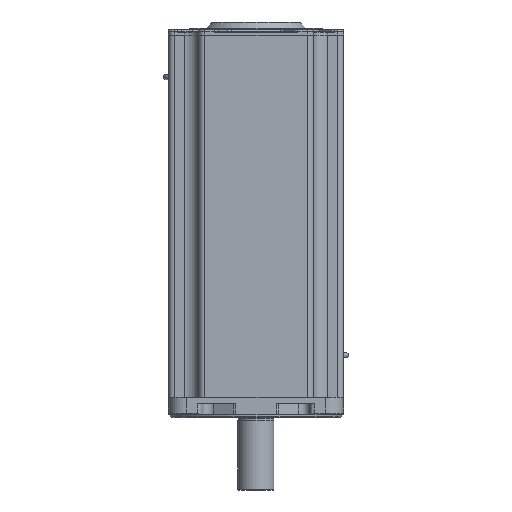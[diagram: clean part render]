
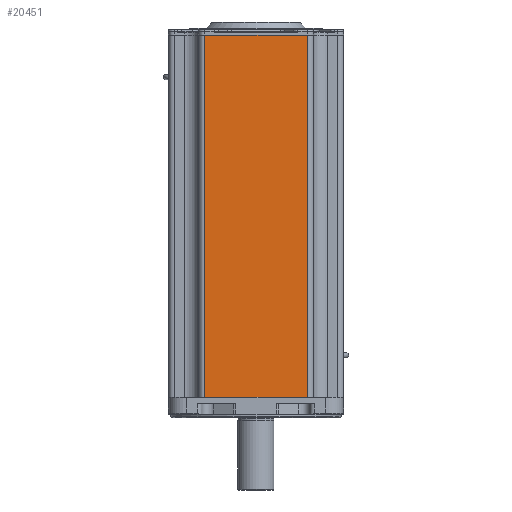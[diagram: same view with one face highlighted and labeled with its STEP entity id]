
A CAD part, front view. The second image highlights one B-rep face of the part: STEP entity #20451.
In plain terms, the highlighted planar face has unit normal (0, -1, 0).
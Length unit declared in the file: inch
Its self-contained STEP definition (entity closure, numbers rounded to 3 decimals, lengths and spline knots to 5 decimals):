
#5605=CARTESIAN_POINT('',(2.14,-3.64,15.41));
#5606=VERTEX_POINT('',#5605);
#5818=CARTESIAN_POINT('',(-2.14,-3.64,15.41));
#5819=VERTEX_POINT('',#5818);
#5826=CARTESIAN_POINT('',(-2.14,-3.64,15.41));
#5827=DIRECTION('',(1.0,0.0,0.0));
#5828=VECTOR('',#5827,4.28);
#5829=LINE('',#5826,#5828);
#5830=EDGE_CURVE('',#5819,#5606,#5829,.T.);
#7876=CARTESIAN_POINT('',(-2.14,-3.64,0.35));
#7877=VERTEX_POINT('',#7876);
#7885=CARTESIAN_POINT('',(-2.14,-3.64,0.35));
#7886=DIRECTION('',(0.0,0.0,1.0));
#7887=VECTOR('',#7886,15.06);
#7888=LINE('',#7885,#7887);
#7889=EDGE_CURVE('',#7877,#5819,#7888,.T.);
#20416=CARTESIAN_POINT('',(2.14,-3.64,0.35));
#20417=VERTEX_POINT('',#20416);
#20418=CARTESIAN_POINT('',(2.14,-3.64,15.41));
#20419=DIRECTION('',(0.0,0.0,-1.0));
#20420=VECTOR('',#20419,15.06);
#20421=LINE('',#20418,#20420);
#20422=EDGE_CURVE('',#5606,#20417,#20421,.T.);
#20435=CARTESIAN_POINT('',(3.64,-3.64,0.0));
#20436=DIRECTION('',(0.0,-1.0,0.0));
#20437=DIRECTION('',(0.0,0.0,-1.0));
#20438=AXIS2_PLACEMENT_3D('',#20435,#20436,#20437);
#20439=PLANE('',#20438);
#20440=ORIENTED_EDGE('',*,*,#5830,.F.);
#20441=ORIENTED_EDGE('',*,*,#7889,.F.);
#20442=CARTESIAN_POINT('',(2.14,-3.64,0.35));
#20443=DIRECTION('',(-1.0,0.0,0.0));
#20444=VECTOR('',#20443,4.28);
#20445=LINE('',#20442,#20444);
#20446=EDGE_CURVE('',#20417,#7877,#20445,.T.);
#20447=ORIENTED_EDGE('',*,*,#20446,.F.);
#20448=ORIENTED_EDGE('',*,*,#20422,.F.);
#20449=EDGE_LOOP('',(#20440,#20441,#20447,#20448));
#20450=FACE_OUTER_BOUND('',#20449,.T.);
#20451=ADVANCED_FACE('',(#20450),#20439,.T.);
